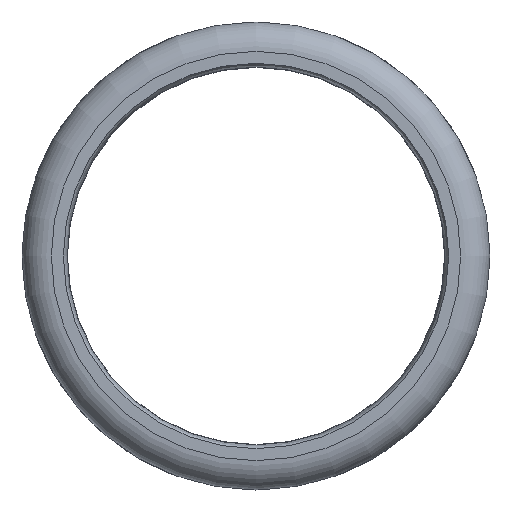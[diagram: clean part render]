
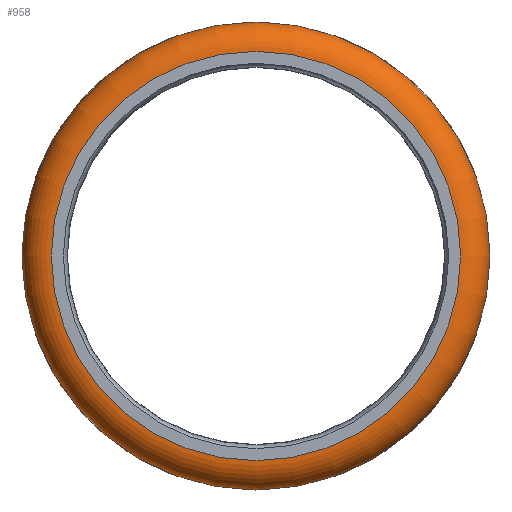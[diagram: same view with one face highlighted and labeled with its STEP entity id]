
A CAD part, left-side view. The second image highlights one B-rep face of the part: STEP entity #958.
In plain terms, the highlighted toroidal (fillet/blend) face has major radius 34.9 mm and minor radius 5 mm.
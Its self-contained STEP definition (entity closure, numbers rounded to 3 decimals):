
#924=CARTESIAN_POINT('',(-70.5,34.9,0.0));
#925=VERTEX_POINT('',#924);
#926=CARTESIAN_POINT('',(-70.5,0.,0.0));
#927=DIRECTION('',(1.0,0.0,0.0));
#928=DIRECTION('',(0.0,1.0,0.0));
#929=AXIS2_PLACEMENT_3D('',#926,#927,#928);
#930=CIRCLE('',#929,34.9);
#931=EDGE_CURVE('',#925,#925,#930,.T.);
#939=CARTESIAN_POINT('',(-65.5,0.,0.0));
#940=DIRECTION('',(1.0,0.,0.0));
#941=DIRECTION('',(0.0,0.0,-1.0));
#942=AXIS2_PLACEMENT_3D('',#939,#940,#941);
#943=TOROIDAL_SURFACE('',#942,34.9,5.0);
#944=CARTESIAN_POINT('',(-61.964,38.436,0.0));
#945=VERTEX_POINT('',#944);
#946=CARTESIAN_POINT('',(-61.964,0.,0.0));
#947=DIRECTION('',(1.0,0.0,0.0));
#948=DIRECTION('',(0.0,1.0,0.0));
#949=AXIS2_PLACEMENT_3D('',#946,#947,#948);
#950=CIRCLE('',#949,38.436);
#951=EDGE_CURVE('',#945,#945,#950,.T.);
#952=ORIENTED_EDGE('',*,*,#951,.F.);
#953=EDGE_LOOP('',(#952));
#954=FACE_OUTER_BOUND('',#953,.T.);
#955=ORIENTED_EDGE('',*,*,#931,.T.);
#956=EDGE_LOOP('',(#955));
#957=FACE_BOUND('',#956,.T.);
#958=ADVANCED_FACE('',(#954,#957),#943,.T.);
